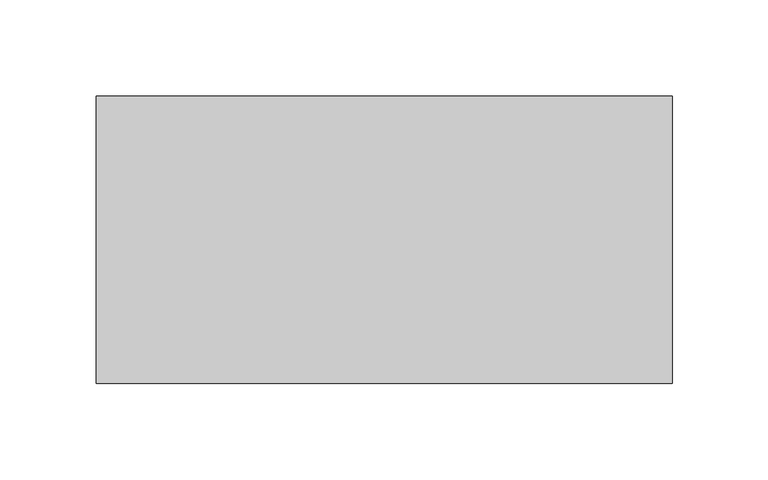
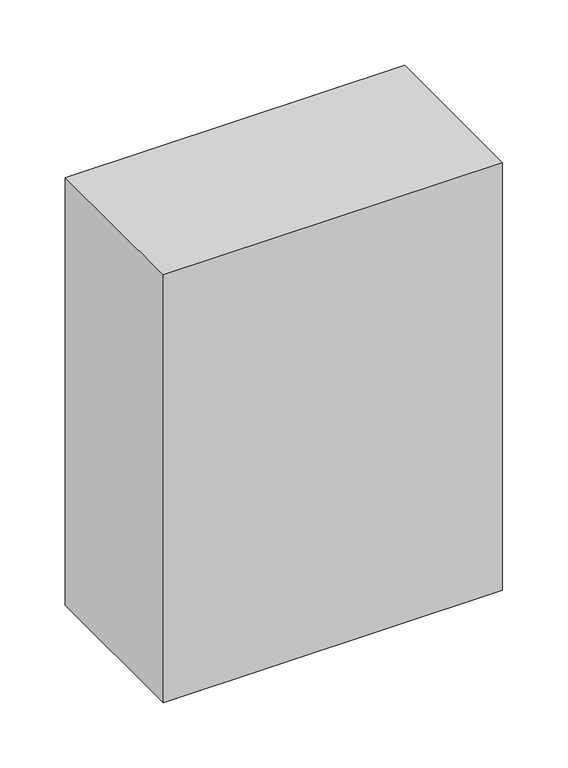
"""IFC4 building model written with IfcOpenShell, lengths in millimetres: proxy geometry, ▲EE_УЭР_компенсатор : 0400_мм."""

from ifc_helpers import new_model, si_unit, origin, origin_with_axes, place, context, project, spatial, polyline, outline, extrude, source, transform, mapped, element, save


def electrical_equipment_43165160(model_context):
    return source(origin(), model_context, "Body", "SweptSolid", [
        extrude(outline(polyline([(300.0, -150.0), (0.0, -150.0), (0.0, 0.0), (300.0, 0.0), (300.0, -150.0)])), origin_with_axes(), (0.0, 0.0, 1.0), 400.0),
    ])


if __name__ == "__main__":
    model = new_model("IFC4")
    model_context = context("Model", 3, world=origin())
    ifc_project = project(units=[si_unit("LENGTHUNIT", "METRE", prefix="MILLI")], contexts=[model_context])
    site = spatial("IfcSite", under=ifc_project)
    building = spatial("IfcBuilding", under=site)
    placement = place(None, origin())
    electrical_equipment_shape = electrical_equipment_43165160(model_context)
    element("IfcBuildingElementProxy", 1, Name="▲EE_УЭР_компенсатор : 0400_мм", ObjectType="▲EE_УЭР_компенсатор : 0400_мм", at=placement, inside=building, context=model_context, shape_type="MappedRepresentation", body=[
        mapped(electrical_equipment_shape, transform((0.0, 0.0, 0.0), x_axis=(1.0, 0.0, 0.0), y_axis=(0.0, 1.0, 0.0), z_axis=(0.0, 0.0, 1.0))),
    ])
    save(model, "model.ifc")
